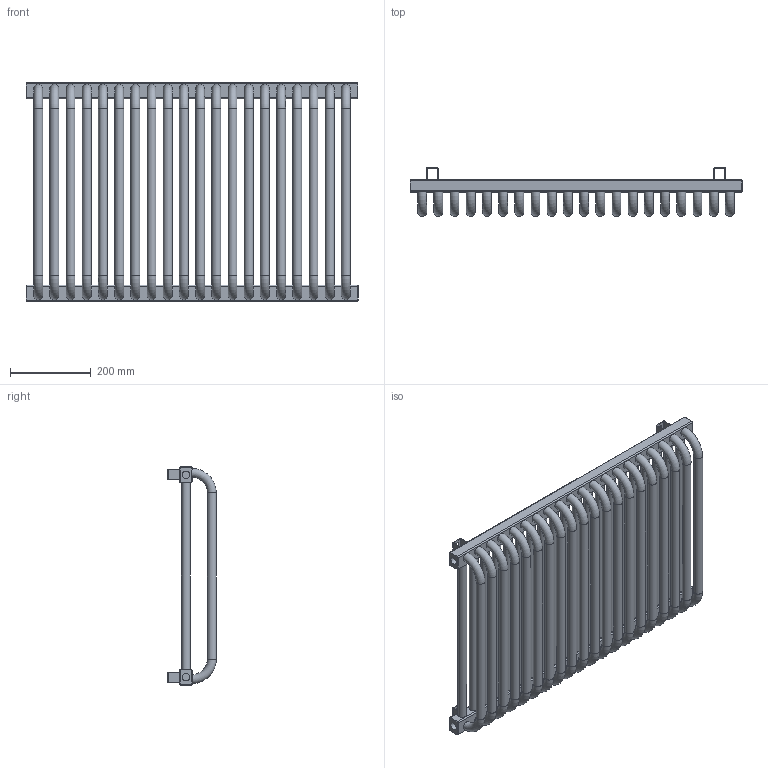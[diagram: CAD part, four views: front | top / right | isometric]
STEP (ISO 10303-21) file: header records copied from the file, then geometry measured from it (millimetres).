
FILE_DESCRIPTION((''),'2;1');
FILE_NAME('Z:\R\G\P\RGPH03 - Grzejnik Dobus\Work\Inventor\Marketing\STEP\DF-54-82-L6.stp','2012-07-25T11:38:20',('PioRo'),(''),'Autodesk Inventor 2012','Autodesk Inventor 2012','');
FILE_SCHEMA(('CONFIG_CONTROL_DESIGN'));
Length unit declared in the file: millimetre
Products named in the file (1): Część1
Bounding box: 820 x 120 x 540 mm (x, y, z)
Volume: 9750509.5 mm3; surface area: 1631093 mm2
Topology: 5 solids, 5 shells, 230 faces, 573 edges, 358 vertices
Faces by surface type: cylinder 95, plane 79, torus 56
Full cylindrical faces by diameter (mm): 0.1 x4, 18.631 x3, 22 x40
Entity records: 9333 total; most frequent: CARTESIAN_POINT 3675, DIRECTION 1114, ORIENTED_EDGE 972, EDGE_CURVE 486, AXIS2_PLACEMENT_3D 437, EDGE_LOOP 408, VERTEX_POINT 358, VECTOR 240
